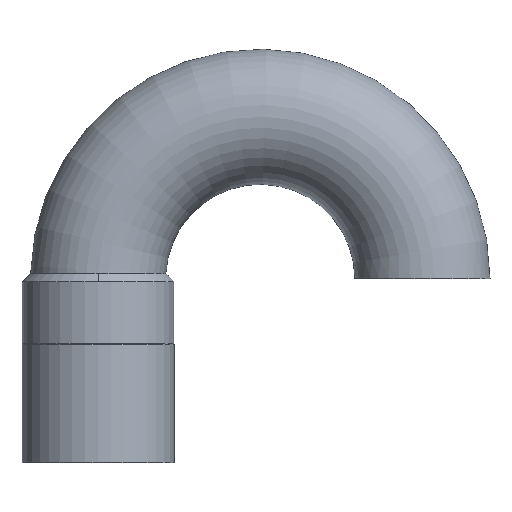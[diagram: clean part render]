
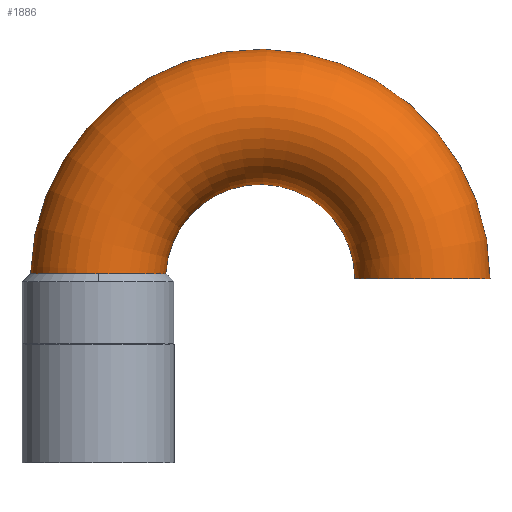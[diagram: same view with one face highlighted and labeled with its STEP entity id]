
A CAD part, front view. The second image highlights one B-rep face of the part: STEP entity #1886.
In plain terms, the highlighted toroidal (fillet/blend) face has major radius 30 mm and minor radius 12.5 mm.
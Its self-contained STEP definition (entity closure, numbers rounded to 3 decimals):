
#7 = CARTESIAN_POINT ( 'NONE',  ( 17.473, -0.973, 0. ) ) ;
#62 = ORIENTED_EDGE ( 'NONE', *, *, #1266, .T. ) ;
#83 = CARTESIAN_POINT ( 'NONE',  ( 18.132, -0.975, 4.023 ) ) ;
#101 = CARTESIAN_POINT ( 'NONE',  ( 20.575, -0.982, 8.248 ) ) ;
#122 = CARTESIAN_POINT ( 'NONE',  ( 32.036, -1., 12.337 ) ) ;
#165 = CARTESIAN_POINT ( 'NONE',  ( 0., 0., 0. ) ) ;
#224 = CARTESIAN_POINT ( 'NONE',  ( 17.893, -0.974, 3.236 ) ) ;
#247 = CARTESIAN_POINT ( 'NONE',  ( 35.155, -1., 11.388 ) ) ;
#276 = VERTEX_POINT ( 'NONE', #809 ) ;
#289 = EDGE_CURVE ( 'NONE', #1549, #840, #1525, .T. ) ;
#362 = CARTESIAN_POINT ( 'NONE',  ( 28.351, -0.998, 12.42 ) ) ;
#381 = CARTESIAN_POINT ( 'NONE',  ( 22.696, -0.987, 10.168 ) ) ;
#390 = CARTESIAN_POINT ( 'NONE',  ( 33.234, -1., 12.098 ) ) ;
#416 = TOROIDAL_SURFACE ( 'NONE', #1198, 30., 12.5 ) ;
#419 = CARTESIAN_POINT ( 'NONE',  ( 38.234, -1., 9.402 ) ) ;
#439 = CARTESIAN_POINT ( 'NONE',  ( -42.5, 0., 0. ) ) ;
#440 = CARTESIAN_POINT ( 'NONE',  ( 40.834, -1., 6.267 ) ) ;
#485 = DIRECTION ( 'NONE',  ( 1., 0., 0. ) ) ;
#524 = CARTESIAN_POINT ( 'NONE',  ( 17.473, -0.973, 0. ) ) ;
#526 = CARTESIAN_POINT ( 'NONE',  ( 0., 0., 0. ) ) ;
#571 = CARTESIAN_POINT ( 'NONE',  ( 42.388, -1., 1.63 ) ) ;
#673 = DIRECTION ( 'NONE',  ( 0., 0., 1. ) ) ;
#683 = DIRECTION ( 'NONE',  ( 1., 0., 0. ) ) ;
#684 = CARTESIAN_POINT ( 'NONE',  ( 35.528, -1., 11.212 ) ) ;
#691 = CARTESIAN_POINT ( 'NONE',  ( 18.738, -0.977, 5.537 ) ) ;
#692 = CARTESIAN_POINT ( 'NONE',  ( 39.411, -1., 8.253 ) ) ;
#726 = AXIS2_PLACEMENT_3D ( 'NONE', #1059, #752, #485 ) ;
#731 = CARTESIAN_POINT ( 'NONE',  ( 42.488, -1., 0. ) ) ;
#752 = DIRECTION ( 'NONE',  ( 0., -1., 0. ) ) ;
#757 = EDGE_CURVE ( 'NONE', #1257, #840, #1485, .T. ) ;
#782 = DIRECTION ( 'NONE',  ( 0., 0., 1. ) ) ;
#809 = CARTESIAN_POINT ( 'NONE',  ( -17.5, 0., 0. ) ) ;
#817 = CARTESIAN_POINT ( 'NONE',  ( 21.123, -0.984, 8.852 ) ) ;
#826 = ORIENTED_EDGE ( 'NONE', *, *, #757, .F. ) ;
#833 = B_SPLINE_CURVE_WITH_KNOTS ( 'NONE', 3,
 ( #1104, #966, #362, #1428, #1095, #1128, #1689, #381, #1564, #1245, #817, #101, #1861, #1545, #1843, #691, #1283, #83, #224, #1727, #1253, #957, #524 ),
 .UNSPECIFIED., .F., .F.,
 ( 4, 2, 2, 2, 2, 1, 2, 2, 2, 2, 2, 4 ),
 ( 0., 0.002, 0.005, 0.007, 0.009, 0.01, 0.011, 0.012, 0.015, 0.016, 0.017, 0.02 ),
 .UNSPECIFIED. ) ;
#840 = VERTEX_POINT ( 'NONE', #1316 ) ;
#842 = CARTESIAN_POINT ( 'NONE',  ( 30.401, -1., 12.5 ) ) ;
#884 = FACE_OUTER_BOUND ( 'NONE', #1436, .T. ) ;
#953 = ORIENTED_EDGE ( 'NONE', *, *, #289, .T. ) ;
#957 = CARTESIAN_POINT ( 'NONE',  ( 17.473, -0.973, 0.818 ) ) ;
#966 = CARTESIAN_POINT ( 'NONE',  ( 29.165, -0.999, 12.501 ) ) ;
#975 = CIRCLE ( 'NONE', #726, 12.5 ) ;
#985 = CARTESIAN_POINT ( 'NONE',  ( 31.632, -1., 12.398 ) ) ;
#1035 = CARTESIAN_POINT ( 'NONE',  ( 42.488, -1., 0.407 ) ) ;
#1041 = DIRECTION ( 'NONE',  ( 1., 0., 0. ) ) ;
#1042 = AXIS2_PLACEMENT_3D ( 'NONE', #1852, #673, #683 ) ;
#1054 = AXIS2_PLACEMENT_3D ( 'NONE', #526, #782, #1393 ) ;
#1055 = ORIENTED_EDGE ( 'NONE', *, *, #1413, .F. ) ;
#1059 = CARTESIAN_POINT ( 'NONE',  ( -30., 0., 0. ) ) ;
#1095 = CARTESIAN_POINT ( 'NONE',  ( 25.949, -0.994, 11.86 ) ) ;
#1104 = CARTESIAN_POINT ( 'NONE',  ( 29.992, -1., 12.5 ) ) ;
#1128 = CARTESIAN_POINT ( 'NONE',  ( 24.439, -0.991, 11.235 ) ) ;
#1130 = CARTESIAN_POINT ( 'NONE',  ( 29.992, -1., 12.5 ) ) ;
#1155 = DIRECTION ( 'NONE',  ( 0., 0., 1. ) ) ;
#1160 = CIRCLE ( 'NONE', #1042, 17.5 ) ;
#1166 = CARTESIAN_POINT ( 'NONE',  ( 41.226, -1., 5.533 ) ) ;
#1177 = VERTEX_POINT ( 'NONE', #7 ) ;
#1198 = AXIS2_PLACEMENT_3D ( 'NONE', #165, #1155, #1041 ) ;
#1222 = CARTESIAN_POINT ( 'NONE',  ( 29.992, -1., 12.5 ) ) ;
#1245 = CARTESIAN_POINT ( 'NONE',  ( 21.728, -0.985, 9.4 ) ) ;
#1253 = CARTESIAN_POINT ( 'NONE',  ( 17.553, -0.973, 1.629 ) ) ;
#1257 = VERTEX_POINT ( 'NONE', #1222 ) ;
#1266 = EDGE_CURVE ( 'NONE', #276, #1549, #975, .T. ) ;
#1283 = CARTESIAN_POINT ( 'NONE',  ( 18.27, -0.976, 4.408 ) ) ;
#1285 = CARTESIAN_POINT ( 'NONE',  ( 39.927, -1., 7.624 ) ) ;
#1306 = CARTESIAN_POINT ( 'NONE',  ( 30.814, -1., 12.479 ) ) ;
#1316 = CARTESIAN_POINT ( 'NONE',  ( 42.488, -1., 0. ) ) ;
#1325 = CARTESIAN_POINT ( 'NONE',  ( 41.85, -1., 4.025 ) ) ;
#1371 = EDGE_CURVE ( 'NONE', #1257, #1177, #833, .T. ) ;
#1393 = DIRECTION ( 'NONE',  ( 1., 0., 0. ) ) ;
#1413 = EDGE_CURVE ( 'NONE', #276, #1177, #1160, .T. ) ;
#1428 = CARTESIAN_POINT ( 'NONE',  ( 26.745, -0.995, 12.102 ) ) ;
#1436 = EDGE_LOOP ( 'NONE', ( #62, #953, #826, #1640, #1055 ) ) ;
#1438 = CARTESIAN_POINT ( 'NONE',  ( 37.601, -1., 9.922 ) ) ;
#1485 = B_SPLINE_CURVE_WITH_KNOTS ( 'NONE', 3,
 ( #1130, #842, #1306, #985, #122, #390, #1583, #247, #684, #1871, #1757, #1438, #419, #1565, #692, #1285, #440, #1166, #1325, #1608, #1486, #571, #1766, #1035, #731 ),
 .UNSPECIFIED., .F., .F.,
 ( 4, 2, 2, 2, 2, 1, 2, 2, 2, 2, 2, 2, 4 ),
 ( 0.029, 0.03, 0.031, 0.033, 0.035, 0.036, 0.037, 0.038, 0.041, 0.043, 0.046, 0.047, 0.048 ),
 .UNSPECIFIED. ) ;
#1486 = CARTESIAN_POINT ( 'NONE',  ( 42.327, -1., 2.04 ) ) ;
#1525 = CIRCLE ( 'NONE', #1054, 42.5 ) ;
#1545 = CARTESIAN_POINT ( 'NONE',  ( 19.811, -0.98, 7.286 ) ) ;
#1549 = VERTEX_POINT ( 'NONE', #439 ) ;
#1564 = CARTESIAN_POINT ( 'NONE',  ( 22.362, -0.987, 9.92 ) ) ;
#1565 = CARTESIAN_POINT ( 'NONE',  ( 38.541, -1., 9.124 ) ) ;
#1583 = CARTESIAN_POINT ( 'NONE',  ( 34.014, -1., 11.862 ) ) ;
#1608 = CARTESIAN_POINT ( 'NONE',  ( 42.087, -1., 3.246 ) ) ;
#1640 = ORIENTED_EDGE ( 'NONE', *, *, #1371, .T. ) ;
#1689 = CARTESIAN_POINT ( 'NONE',  ( 23.72, -0.99, 10.851 ) ) ;
#1727 = CARTESIAN_POINT ( 'NONE',  ( 17.792, -0.974, 2.834 ) ) ;
#1757 = CARTESIAN_POINT ( 'NONE',  ( 36.946, -1., 10.407 ) ) ;
#1766 = CARTESIAN_POINT ( 'NONE',  ( 42.468, -1., 0.814 ) ) ;
#1843 = CARTESIAN_POINT ( 'NONE',  ( 19.123, -0.978, 6.258 ) ) ;
#1852 = CARTESIAN_POINT ( 'NONE',  ( 0., 0., 0. ) ) ;
#1861 = CARTESIAN_POINT ( 'NONE',  ( 20.056, -0.981, 7.617 ) ) ;
#1871 = CARTESIAN_POINT ( 'NONE',  ( 36.248, -1., 10.826 ) ) ;
#1886 = ADVANCED_FACE ( 'NONE', ( #884 ), #416, .T. ) ;
